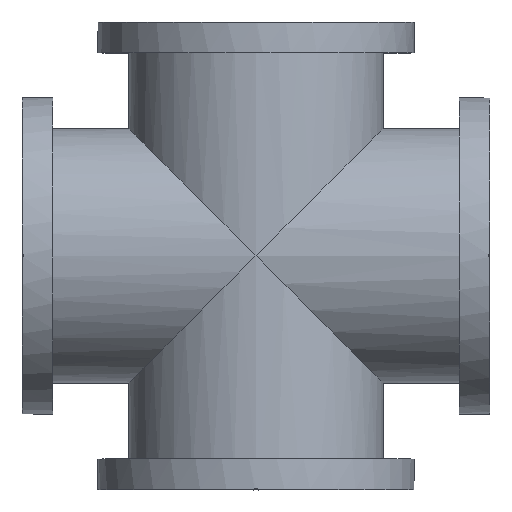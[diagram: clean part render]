
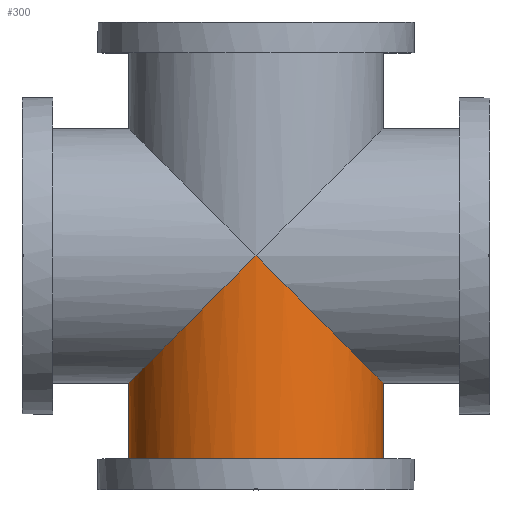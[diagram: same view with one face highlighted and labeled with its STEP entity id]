
A CAD part, top view. The second image highlights one B-rep face of the part: STEP entity #300.
In plain terms, the highlighted cylindrical face has radius 102 mm (diameter 204 mm), a full revolution.
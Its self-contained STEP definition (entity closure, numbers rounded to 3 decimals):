
#300 = ADVANCED_FACE( '', ( #636, #637 ), #638, .T. );
#636 = FACE_OUTER_BOUND( '', #1111, .T. );
#637 = FACE_OUTER_BOUND( '', #1112, .T. );
#638 = CYLINDRICAL_SURFACE( '', #1113, 102. );
#1111 = EDGE_LOOP( '', ( #1653, #1654 ) );
#1112 = EDGE_LOOP( '', ( #1655 ) );
#1113 = AXIS2_PLACEMENT_3D( '', #1656, #1657, #1658 );
#1653 = ORIENTED_EDGE( '', *, *, #2115, .F. );
#1654 = ORIENTED_EDGE( '', *, *, #2197, .F. );
#1655 = ORIENTED_EDGE( '', *, *, #2204, .T. );
#1656 = CARTESIAN_POINT( '', ( 0., -178., 0. ) );
#1657 = DIRECTION( '', ( 0., -1., 0. ) );
#1658 = DIRECTION( '', ( 0., 0., 1. ) );
#2115 = EDGE_CURVE( '', #2387, #2386, #2389, .T. );
#2197 = EDGE_CURVE( '', #2386, #2387, #2526, .T. );
#2204 = EDGE_CURVE( '', #2536, #2536, #2537, .T. );
#2386 = VERTEX_POINT( '', #2810 );
#2387 = VERTEX_POINT( '', #2811 );
#2389 = ELLIPSE( '', #2813, 144.25, 102. );
#2526 = ELLIPSE( '', #3042, 144.25, 102. );
#2536 = VERTEX_POINT( '', #3052 );
#2537 = CIRCLE( '', #3053, 102. );
#2810 = CARTESIAN_POINT( '', ( 0., 0., 102. ) );
#2811 = CARTESIAN_POINT( '', ( 0., 0., -102. ) );
#2813 = AXIS2_PLACEMENT_3D( '', #3321, #3322, #3323 );
#3042 = AXIS2_PLACEMENT_3D( '', #3472, #3473, #3474 );
#3052 = CARTESIAN_POINT( '', ( 102., -178., 0. ) );
#3053 = AXIS2_PLACEMENT_3D( '', #3487, #3488, #3489 );
#3321 = CARTESIAN_POINT( '', ( 0., 0., 0. ) );
#3322 = DIRECTION( '', ( -0.707, 0.707, 0. ) );
#3323 = DIRECTION( '', ( 0.707, 0.707, 0. ) );
#3472 = CARTESIAN_POINT( '', ( 0., 0., 0. ) );
#3473 = DIRECTION( '', ( 0.707, 0.707, 0. ) );
#3474 = DIRECTION( '', ( -0.707, 0.707, 0. ) );
#3487 = CARTESIAN_POINT( '', ( 0., -178., 0. ) );
#3488 = DIRECTION( '', ( 0., 1., 0. ) );
#3489 = DIRECTION( '', ( 1., 0., 0. ) );
